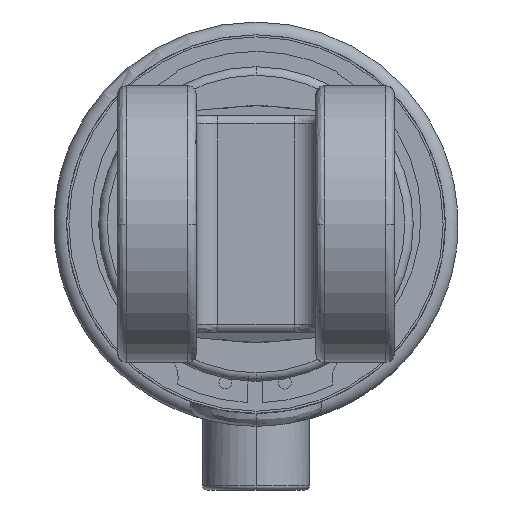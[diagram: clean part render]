
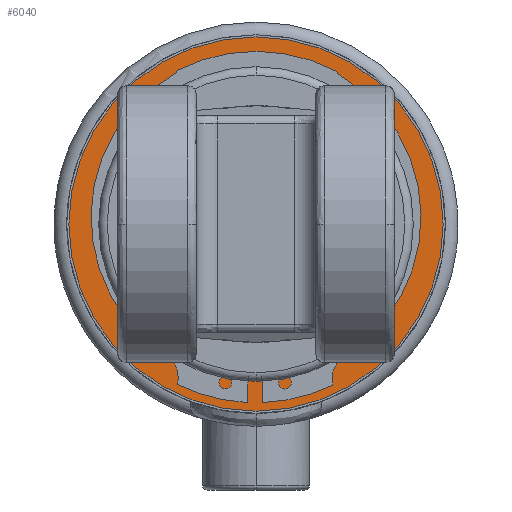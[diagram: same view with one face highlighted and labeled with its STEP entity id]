
A CAD part, left-side view. The second image highlights one B-rep face of the part: STEP entity #6040.
In plain terms, the highlighted planar face has unit normal (-1, 0, 0).
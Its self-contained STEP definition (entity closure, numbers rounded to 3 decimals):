
#692 = EDGE_LOOP ( 'NONE', ( #1772, #10764 ) ) ;
#934 = AXIS2_PLACEMENT_3D ( 'NONE', #5097, #11443, #6017 ) ;
#1108 = EDGE_CURVE ( 'NONE', #9364, #1616, #2344, .T. ) ;
#1379 = CARTESIAN_POINT ( 'NONE',  ( -570.005, 0., -43.95 ) ) ;
#1422 = EDGE_CURVE ( 'NONE', #10284, #10636, #10592, .T. ) ;
#1429 = CARTESIAN_POINT ( 'NONE',  ( -570.005, 0., 43.95 ) ) ;
#1462 = FACE_OUTER_BOUND ( 'NONE', #8608, .T. ) ;
#1616 = VERTEX_POINT ( 'NONE', #10886 ) ;
#1772 = ORIENTED_EDGE ( 'NONE', *, *, #6076, .F. ) ;
#2252 = CARTESIAN_POINT ( 'NONE',  ( -570.005, 0., 0. ) ) ;
#2344 = CIRCLE ( 'NONE', #934, 43.95 ) ;
#2469 = AXIS2_PLACEMENT_3D ( 'NONE', #1379, #10484, #5067 ) ;
#2491 = ORIENTED_EDGE ( 'NONE', *, *, #7923, .T. ) ;
#3096 = AXIS2_PLACEMENT_3D ( 'NONE', #4178, #10520, #5104 ) ;
#3186 = DIRECTION ( 'NONE',  ( 0., 0., 1. ) ) ;
#4178 = CARTESIAN_POINT ( 'NONE',  ( -570.005, 0., 0. ) ) ;
#4762 = DIRECTION ( 'NONE',  ( -1., 0., 0. ) ) ;
#5067 = DIRECTION ( 'NONE',  ( 0., 0., 1. ) ) ;
#5097 = CARTESIAN_POINT ( 'NONE',  ( -570.005, 0., 0. ) ) ;
#5104 = DIRECTION ( 'NONE',  ( 0., 0., 1. ) ) ;
#5745 = CIRCLE ( 'NONE', #3096, 36.95 ) ;
#5948 = PLANE ( 'NONE',  #2469 ) ;
#6017 = DIRECTION ( 'NONE',  ( 0., 0., 1. ) ) ;
#6040 = ADVANCED_FACE ( 'NONE', ( #1462, #10558 ), #5948, .T. ) ;
#6076 = EDGE_CURVE ( 'NONE', #10636, #10284, #5745, .T. ) ;
#6168 = CIRCLE ( 'NONE', #11709, 43.95 ) ;
#6367 = CARTESIAN_POINT ( 'NONE',  ( -570.005, 0., -36.95 ) ) ;
#7923 = EDGE_CURVE ( 'NONE', #1616, #9364, #6168, .T. ) ;
#8087 = ORIENTED_EDGE ( 'NONE', *, *, #1108, .T. ) ;
#8608 = EDGE_LOOP ( 'NONE', ( #8087, #2491 ) ) ;
#8635 = DIRECTION ( 'NONE',  ( -1., 0., 0. ) ) ;
#9364 = VERTEX_POINT ( 'NONE', #1429 ) ;
#10186 = CARTESIAN_POINT ( 'NONE',  ( -570.005, 0., 0. ) ) ;
#10284 = VERTEX_POINT ( 'NONE', #6367 ) ;
#10484 = DIRECTION ( 'NONE',  ( -1., 0., 0. ) ) ;
#10520 = DIRECTION ( 'NONE',  ( -1., 0., 0. ) ) ;
#10558 = FACE_BOUND ( 'NONE', #692, .T. ) ;
#10592 = CIRCLE ( 'NONE', #10702, 36.95 ) ;
#10636 = VERTEX_POINT ( 'NONE', #11260 ) ;
#10702 = AXIS2_PLACEMENT_3D ( 'NONE', #10186, #4762, #11100 ) ;
#10764 = ORIENTED_EDGE ( 'NONE', *, *, #1422, .F. ) ;
#10886 = CARTESIAN_POINT ( 'NONE',  ( -570.005, 0., -43.95 ) ) ;
#11100 = DIRECTION ( 'NONE',  ( 0., 0., 1. ) ) ;
#11260 = CARTESIAN_POINT ( 'NONE',  ( -570.005, 0., 36.95 ) ) ;
#11443 = DIRECTION ( 'NONE',  ( -1., 0., 0. ) ) ;
#11709 = AXIS2_PLACEMENT_3D ( 'NONE', #2252, #8635, #3186 ) ;
